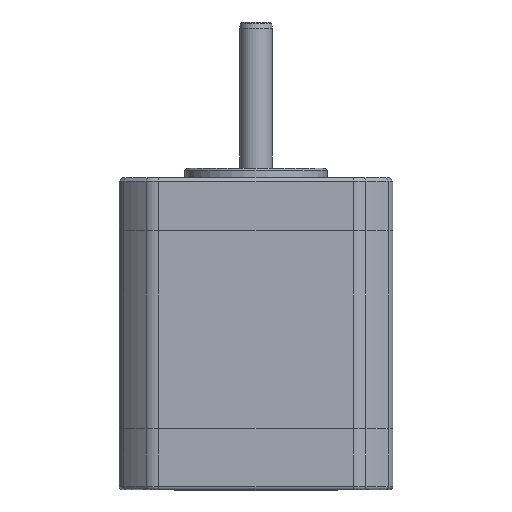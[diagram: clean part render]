
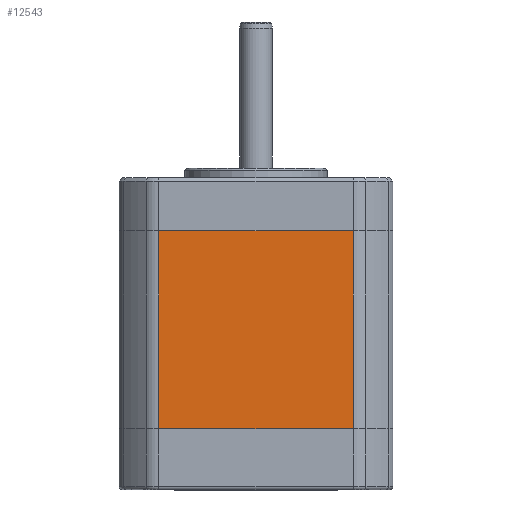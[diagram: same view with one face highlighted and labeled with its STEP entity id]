
A CAD part, front view. The second image highlights one B-rep face of the part: STEP entity #12543.
In plain terms, the highlighted planar face has unit normal (0, -1, 0).
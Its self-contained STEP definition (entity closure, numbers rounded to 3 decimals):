
#149 = ORIENTED_EDGE ( 'NONE', *, *, #10532, .T. ) ;
#217 = DIRECTION ( 'NONE',  ( -1., 0., 0. ) ) ;
#384 = DIRECTION ( 'NONE',  ( 0., 1., 0. ) ) ;
#1024 = VERTEX_POINT ( 'NONE', #8392 ) ;
#1678 = DIRECTION ( 'NONE',  ( -1., 0., 0. ) ) ;
#1970 = CARTESIAN_POINT ( 'NONE',  ( 15.018, -21.075, -8.15 ) ) ;
#2657 = FACE_OUTER_BOUND ( 'NONE', #13134, .T. ) ;
#2714 = CARTESIAN_POINT ( 'NONE',  ( 16.065, -21.075, -38.65 ) ) ;
#2739 = VECTOR ( 'NONE', #1678, 1000. ) ;
#3120 = VERTEX_POINT ( 'NONE', #12638 ) ;
#3801 = EDGE_CURVE ( 'NONE', #1024, #10576, #9383, .T. ) ;
#4211 = VECTOR ( 'NONE', #7155, 1000. ) ;
#4911 = CARTESIAN_POINT ( 'NONE',  ( 15.018, -21.075, -38.65 ) ) ;
#5604 = PLANE ( 'NONE',  #5906 ) ;
#5906 = AXIS2_PLACEMENT_3D ( 'NONE', #12846, #384, #7704 ) ;
#5968 = DIRECTION ( 'NONE',  ( 0., 0., 1. ) ) ;
#6117 = CARTESIAN_POINT ( 'NONE',  ( -15.018, -21.075, -38.65 ) ) ;
#6382 = ORIENTED_EDGE ( 'NONE', *, *, #3801, .T. ) ;
#6841 = ORIENTED_EDGE ( 'NONE', *, *, #9313, .F. ) ;
#7155 = DIRECTION ( 'NONE',  ( 0., 0., -1. ) ) ;
#7532 = CARTESIAN_POINT ( 'NONE',  ( 16.065, -21.075, -8.15 ) ) ;
#7690 = LINE ( 'NONE', #2714, #2739 ) ;
#7704 = DIRECTION ( 'NONE',  ( 0., 0., 1. ) ) ;
#7708 = VERTEX_POINT ( 'NONE', #10514 ) ;
#7800 = EDGE_CURVE ( 'NONE', #10576, #7708, #13394, .T. ) ;
#7895 = VECTOR ( 'NONE', #217, 1000. ) ;
#8392 = CARTESIAN_POINT ( 'NONE',  ( 15.018, -21.075, -38.65 ) ) ;
#8743 = VECTOR ( 'NONE', #5968, 1000. ) ;
#8989 = ORIENTED_EDGE ( 'NONE', *, *, #7800, .T. ) ;
#9313 = EDGE_CURVE ( 'NONE', #1024, #3120, #7690, .T. ) ;
#9383 = LINE ( 'NONE', #4911, #8743 ) ;
#10514 = CARTESIAN_POINT ( 'NONE',  ( -15.018, -21.075, -8.15 ) ) ;
#10532 = EDGE_CURVE ( 'NONE', #7708, #3120, #12502, .T. ) ;
#10576 = VERTEX_POINT ( 'NONE', #1970 ) ;
#12502 = LINE ( 'NONE', #6117, #4211 ) ;
#12543 = ADVANCED_FACE ( 'NONE', ( #2657 ), #5604, .F. ) ;
#12638 = CARTESIAN_POINT ( 'NONE',  ( -15.018, -21.075, -38.65 ) ) ;
#12846 = CARTESIAN_POINT ( 'NONE',  ( 16.065, -21.075, -38.65 ) ) ;
#13134 = EDGE_LOOP ( 'NONE', ( #8989, #149, #6841, #6382 ) ) ;
#13394 = LINE ( 'NONE', #7532, #7895 ) ;
